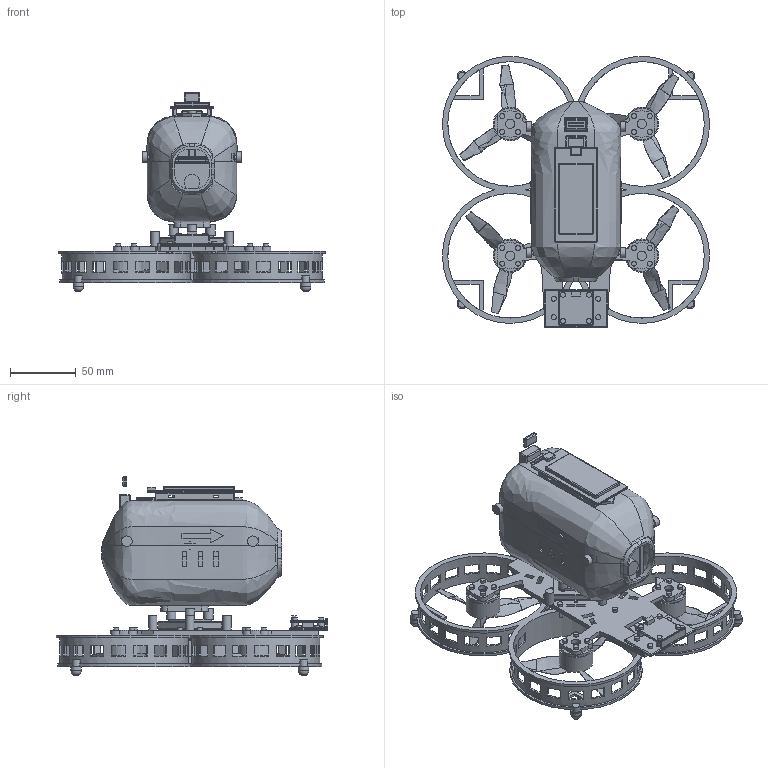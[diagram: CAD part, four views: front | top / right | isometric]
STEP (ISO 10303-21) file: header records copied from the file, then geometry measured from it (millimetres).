
FILE_DESCRIPTION(('Open CASCADE Model'),'2;1');
FILE_NAME('Open CASCADE Shape Model','2026-10-28T21:01:24',('Author'),( 'Open CASCADE'),'Open CASCADE STEP processor 7.9','Open CASCADE 7.9' ,'Unknown');
FILE_SCHEMA(('AUTOMOTIVE_DESIGN { 1 0 10303 214 1 1 1 1 }'));
Length unit declared in the file: millimetre
Products named in the file (186): themis35-cl35; t35-pod-lower; t35-canopy; t35-nose-bumper; t35-pi-shelf; t35-battery-tray; t35-esc; t35-esc-spacer-1a; t35-esc-spacer-1b; t35-insert-m3-spine-1; t35-esc-spacer-2a; t35-esc-spacer-2b; t35-insert-m3-spine-2; t35-esc-spacer-3a; t35-esc-spacer-3b; t35-insert-m3-spine-3; t35-esc-spacer-4a; t35-esc-spacer-4b; t35-insert-m3-spine-4; t35-esc-cap-1; t35-esc-cap-2; t35-esc-cap-3; t35-esc-cap-4; t35-m25x6b-cap-1; t35-insert-m25-cap-1; t35-m25x6b-cap-2; t35-insert-m25-cap-2; t35-m25x6b-cap-3; t35-insert-m25-cap-3; t35-m25x6b-cap-4; t35-insert-m25-cap-4; t35-pixhawk-6c-mini; t35-pixhawk-port-power; t35-pixhawk-port-telem2; t35-pixhawk-port-telem1; t35-pixhawk-port-gps1; t35-pixhawk-port-can2; t35-pixhawk-port-can1; t35-pixhawk-pwm-header; t35-foam-pixhawk-1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
Assembly tree (185 placements, depth 2):
  themis35-cl35
    t35-pod-lower
    t35-canopy
    t35-nose-bumper
    t35-pi-shelf
    t35-battery-tray
    t35-esc
    t35-esc-spacer-1a
    t35-esc-spacer-1b
    t35-insert-m3-spine-1
    t35-esc-spacer-2a
    t35-esc-spacer-2b
    t35-insert-m3-spine-2
    t35-esc-spacer-3a
    t35-esc-spacer-3b
    t35-insert-m3-spine-3
    t35-esc-spacer-4a
    t35-esc-spacer-4b
    t35-insert-m3-spine-4
    t35-esc-cap-1
    t35-esc-cap-2
    t35-esc-cap-3
    t35-esc-cap-4
    t35-m25x6b-cap-1
    t35-insert-m25-cap-1
    t35-m25x6b-cap-2
    t35-insert-m25-cap-2
    t35-m25x6b-cap-3
    t35-insert-m25-cap-3
    t35-m25x6b-cap-4
    t35-insert-m25-cap-4
    t35-pixhawk-6c-mini
    t35-pixhawk-port-power
    t35-pixhawk-port-telem2
    t35-pixhawk-port-telem1
    t35-pixhawk-port-gps1
    t35-pixhawk-port-can2
    t35-pixhawk-port-can1
    t35-pixhawk-pwm-header
    t35-foam-pixhawk-1
    t35-foam-pixhawk-2
    t35-foam-pixhawk-3
    t35-foam-pixhawk-4
    t35-pm02-v3
    t35-bec-pcb
    t35-bec-inductor
    t35-foam-pm02
    t35-foam-bec
    t35-elrs-rp1
    t35-m25x6-shelf--1
    t35-insert-m25-shelf--1
    t35-m25x6-tray--1
    t35-insert-m25-tray--1
    t35-insert-m3-post--1-48
    t35-thumb-screw--1-48
    t35-insert-m3-post--1+48
    t35-thumb-screw--1+48
    t35-m25x6-shelf-+1
    t35-insert-m25-shelf-+1
    t35-m25x6-tray-+1
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Bounding box: 203.48 x 206.74 x 152 mm (x, y, z)
Volume: 431688.4 mm3; surface area: 336725.4 mm2
Topology: 208 solids, 209 shells, 2641 faces, 5877 edges, 3465 vertices
Faces by surface type: plane 1396, cylinder 870, sphere 268, bspline 103, cone 4
Full cylindrical faces by diameter (mm): 1.5 x4, 1.6 x10, 1.8 x4, 2 x38, 2.2 x40, 2.5 x28, 2.7 x14, 2.9 x2, 3 x17, 3.2 x16, 3.4 x4, 3.6 x4, 3.8 x34, 4 x22, 4.2 x4, 4.5 x14, 4.6 x18, 4.7 x4, 5.2 x4, 5.7 x4, 6 x8, 6.3 x4, 6.4 x2, 6.6 x4, 7 x8, 8 x8, 9 x4, 12 x1, 14 x1, 24 x4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
Entity records: 191558 total; most frequent: CARTESIAN_POINT 71179, DIRECTION 21987, LINE 11308, VECTOR 11308, ORIENTED_EDGE 11198, PCURVE 11198, DEFINITIONAL_REPRESENTATION 11198, EDGE_CURVE 5603
